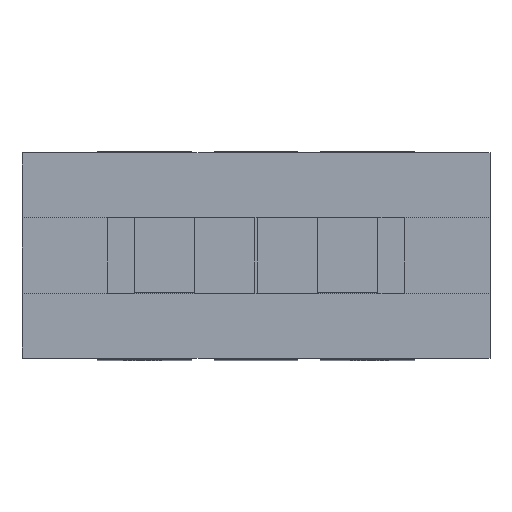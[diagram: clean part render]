
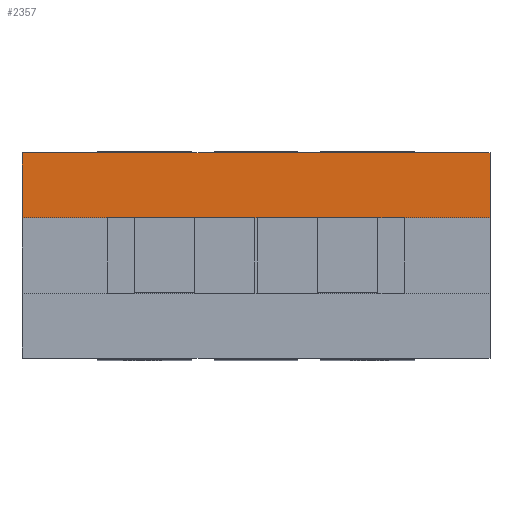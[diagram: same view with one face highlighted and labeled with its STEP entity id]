
A CAD part, top view. The second image highlights one B-rep face of the part: STEP entity #2357.
In plain terms, the highlighted planar face has unit normal (0, 0, 1).
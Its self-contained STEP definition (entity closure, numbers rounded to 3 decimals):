
#107 = EDGE_CURVE ( 'NONE', #6065, #5625, #1218, .T. ) ;
#326 = EDGE_CURVE ( 'NONE', #5274, #2987, #2112, .T. ) ;
#352 = EDGE_CURVE ( 'NONE', #6065, #5274, #2256, .T. ) ;
#416 = EDGE_CURVE ( 'NONE', #5625, #2987, #2400, .T. ) ;
#526 = CARTESIAN_POINT ( 'NONE',  ( -31., 5., 67.5 ) ) ;
#1095 = VECTOR ( 'NONE', #1763, 1000. ) ;
#1185 = CARTESIAN_POINT ( 'NONE',  ( -31., 13.6, 67.5 ) ) ;
#1218 = LINE ( 'NONE', #1728, #1095 ) ;
#1388 = PLANE ( 'NONE',  #1852 ) ;
#1528 = FACE_OUTER_BOUND ( 'NONE', #1879, .T. ) ;
#1589 = ORIENTED_EDGE ( 'NONE', *, *, #326, .T. ) ;
#1728 = CARTESIAN_POINT ( 'NONE',  ( 31., 0., 67.5 ) ) ;
#1763 = DIRECTION ( 'NONE',  ( 0., -1., 0. ) ) ;
#1852 = AXIS2_PLACEMENT_3D ( 'NONE', #2414, #1925, #5577 ) ;
#1879 = EDGE_LOOP ( 'NONE', ( #2532, #4010, #3002, #1589 ) ) ;
#1925 = DIRECTION ( 'NONE',  ( 0., 0., -1. ) ) ;
#2112 = LINE ( 'NONE', #2273, #2189 ) ;
#2189 = VECTOR ( 'NONE', #2285, 1000. ) ;
#2221 = CARTESIAN_POINT ( 'NONE',  ( 31., 13.6, 67.5 ) ) ;
#2256 = LINE ( 'NONE', #2221, #2331 ) ;
#2273 = CARTESIAN_POINT ( 'NONE',  ( -31., 0., 67.5 ) ) ;
#2284 = CARTESIAN_POINT ( 'NONE',  ( 31., 5., 67.5 ) ) ;
#2285 = DIRECTION ( 'NONE',  ( 0., -1., 0. ) ) ;
#2331 = VECTOR ( 'NONE', #2392, 1000. ) ;
#2357 = ADVANCED_FACE ( 'NONE', ( #1528 ), #1388, .F. ) ;
#2392 = DIRECTION ( 'NONE',  ( -1., 0., 0. ) ) ;
#2400 = LINE ( 'NONE', #3238, #4783 ) ;
#2414 = CARTESIAN_POINT ( 'NONE',  ( 31., 13.6, 67.5 ) ) ;
#2532 = ORIENTED_EDGE ( 'NONE', *, *, #416, .F. ) ;
#2987 = VERTEX_POINT ( 'NONE', #526 ) ;
#3002 = ORIENTED_EDGE ( 'NONE', *, *, #352, .T. ) ;
#3217 = DIRECTION ( 'NONE',  ( -1., 0., 0. ) ) ;
#3238 = CARTESIAN_POINT ( 'NONE',  ( 31., 5., 67.5 ) ) ;
#4010 = ORIENTED_EDGE ( 'NONE', *, *, #107, .F. ) ;
#4783 = VECTOR ( 'NONE', #3217, 1000. ) ;
#5274 = VERTEX_POINT ( 'NONE', #1185 ) ;
#5351 = CARTESIAN_POINT ( 'NONE',  ( 31., 13.6, 67.5 ) ) ;
#5577 = DIRECTION ( 'NONE',  ( -1., 0., 0. ) ) ;
#5625 = VERTEX_POINT ( 'NONE', #2284 ) ;
#6065 = VERTEX_POINT ( 'NONE', #5351 ) ;
